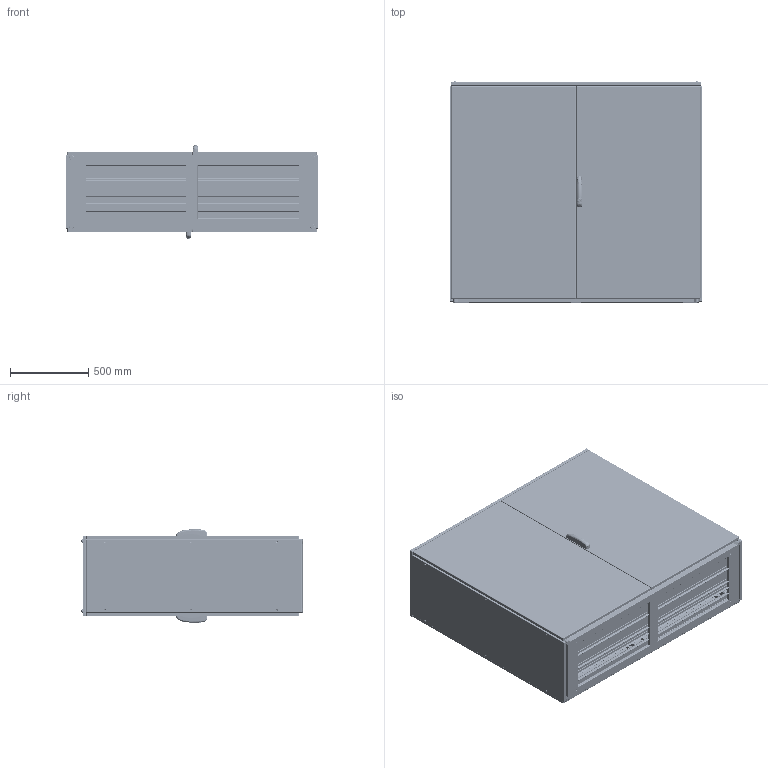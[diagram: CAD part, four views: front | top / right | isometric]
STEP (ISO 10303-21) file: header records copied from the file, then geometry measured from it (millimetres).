
FILE_DESCRIPTION (( 'STEP AP203' ), '1' );
FILE_NAME ('ENUX161405DP.STEP', '2025-06-03T07:04:10', ( '' ), ( '' ), 'SwSTEP 2.0', 'SolidWorks 2022', '' );
FILE_SCHEMA (( 'CONFIG_CONTROL_DESIGN' ));
Length unit declared in the file: millimetre
Products named in the file (15): AR_ENUX_Vite_tetto; AR_ENUX_montaggio_porta_IB_2.0_1600x1400_ANT_DX; AR_ENUX_Struttura_1600x1400x0500; AR_ENUX_montaggio_porta_IB_2.0_1600x1400_POST_DX; AR_ENUX_Fianco_0500x1400_SX; ENUX161405DP; AR_ENUX_Porta_IB_2.0_1600x1400_ANT; AR_ENUX_Porta_IB_2.0_1600x1400_POST; AR_ENUX_Porta_CB_2.0_1600x1400_POST_SX; AR_ENUX_Tetto_1600x0500; AR_ENUX_nuova_maniglia_mesan; AR_ENUX_Tegolino_1600x0050; AR_ENUX_Tegolino_1600x0100; AR_ENUX_Porta_CB_2.0_1600x1400_POST_DX; AR_ENUX_Fianco_0500x1400_DX
Assembly tree (24 placements, depth 3):
  ENUX161405DP
    AR_ENUX_Struttura_1600x1400x0500
    AR_ENUX_Fianco_0500x1400_SX
    AR_ENUX_Fianco_0500x1400_DX
    AR_ENUX_Tetto_1600x0500
    AR_ENUX_Vite_tetto  x4
    AR_ENUX_Tegolino_1600x0100  x5
    AR_ENUX_Tegolino_1600x0050  x3
    AR_ENUX_montaggio_porta_IB_2.0_1600x1400_ANT_DX
      AR_ENUX_Porta_IB_2.0_1600x1400_ANT
      AR_ENUX_nuova_maniglia_mesan
    AR_ENUX_Porta_CB_2.0_1600x1400_POST_SX
    AR_ENUX_montaggio_porta_IB_2.0_1600x1400_POST_DX
      AR_ENUX_Porta_IB_2.0_1600x1400_POST
      AR_ENUX_nuova_maniglia_mesan
    AR_ENUX_Porta_CB_2.0_1600x1400_POST_DX
Bounding box: 1612 x 1415.1 x 600 mm (x, y, z)
Volume: 19611883.1 mm3; surface area: 23604805.9 mm2
Topology: 22 solids, 23 shells, 11011 faces, 31156 edges, 20132 vertices
Faces by surface type: plane 5825, cylinder 4323, bspline 398, torus 247, cone 140, sphere 78
Entity records: 391097 total; most frequent: CARTESIAN_POINT 101799, ORIENTED_EDGE 59786, DIRECTION 57788, EDGE_CURVE 29893, VECTOR 20120, LINE 20120, VERTEX_POINT 19520, AXIS2_PLACEMENT_3D 18834
